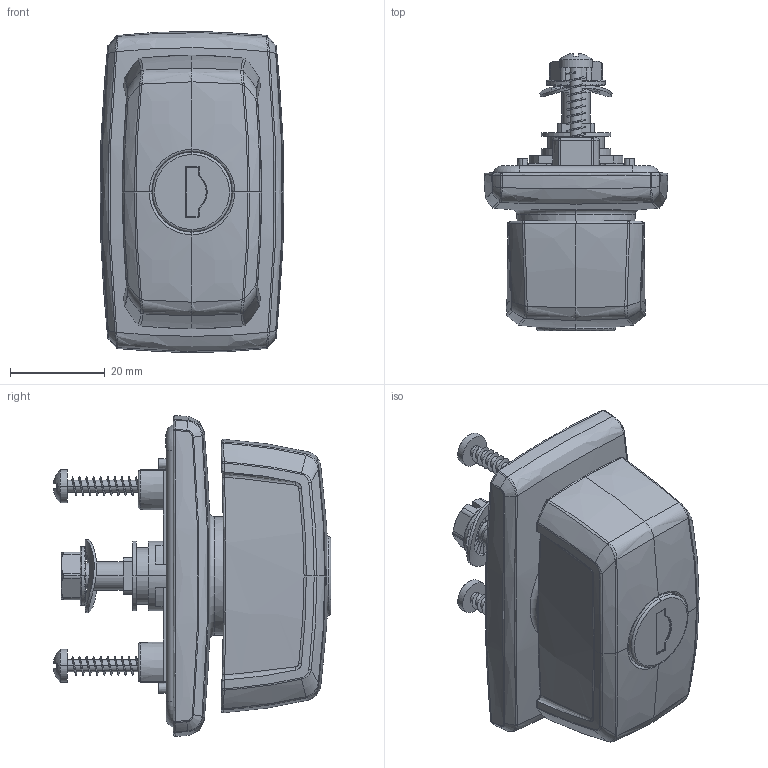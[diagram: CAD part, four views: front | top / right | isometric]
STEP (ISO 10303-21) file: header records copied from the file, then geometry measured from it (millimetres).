
FILE_DESCRIPTION (( 'STEP AP214' ), '1' );
FILE_NAME ('1B.RW210_M.STEP', '2022-02-04T07:07:17', ( '' ), ( '' ), 'SwSTEP 2.0', 'SolidWorks 2021', '' );
FILE_SCHEMA (( 'AUTOMOTIVE_DESIGN' ));
Length unit declared in the file: millimetre
Products named in the file (14): 1B.RW200.02.02.00_B; DIN 915_M3 x 5; 2.PM18.001.03_A; P.014741_00-00; 1B.RW210_M; Wkrêt 4,2 x 22_K.02; A.002122_00-00; 2.B.002_R.1333; Podk³adka ³ukowa M22_A; DIN 3771_14x2; 1B.RW200.00.03_A; Podk³adka teflonowa_A; P.014911; DIN 6921_M6x14
Assembly tree (14 placements, depth 3):
  1B.RW210_M
    P.014741_00-00
    A.002122_00-00
      P.014911
      1B.RW200.02.02.00_B
    2.B.002_R.1333
    DIN 915_M3 x 5
    2.PM18.001.03_A
    DIN 3771_14x2
    1B.RW200.00.03_A
    Podk³adka teflonowa_A
    DIN 6921_M6x14
    Podk³adka ³ukowa M22_A
    Wkrêt 4,2 x 22_K.02  x2
Bounding box: 38.8 x 58.69 x 67.88 mm (x, y, z)
Volume: 40312 mm3; surface area: 33257.5 mm2
Topology: 16 solids, 16 shells, 1431 faces, 3470 edges, 2023 vertices
Faces by surface type: bspline 506, plane 400, cylinder 290, torus 110, cone 76, sphere 49
Entity records: 61442 total; most frequent: CARTESIAN_POINT 32014, ORIENTED_EDGE 6666, DIRECTION 4935, EDGE_CURVE 3333, VERTEX_POINT 1971, AXIS2_PLACEMENT_3D 1961, EDGE_LOOP 1420, FACE_OUTER_BOUND 1393
